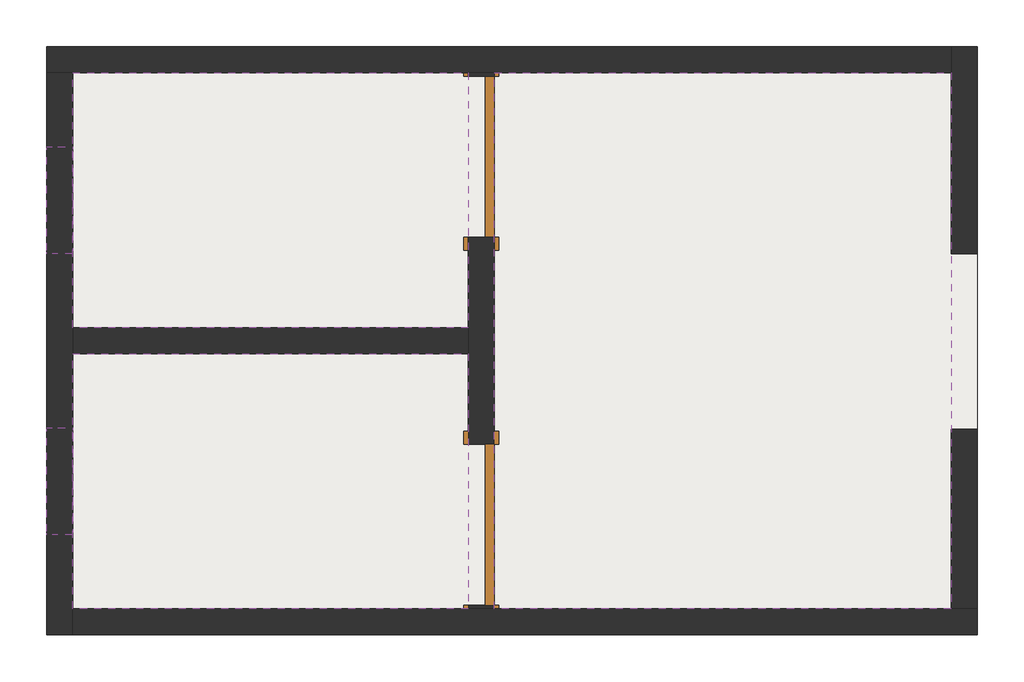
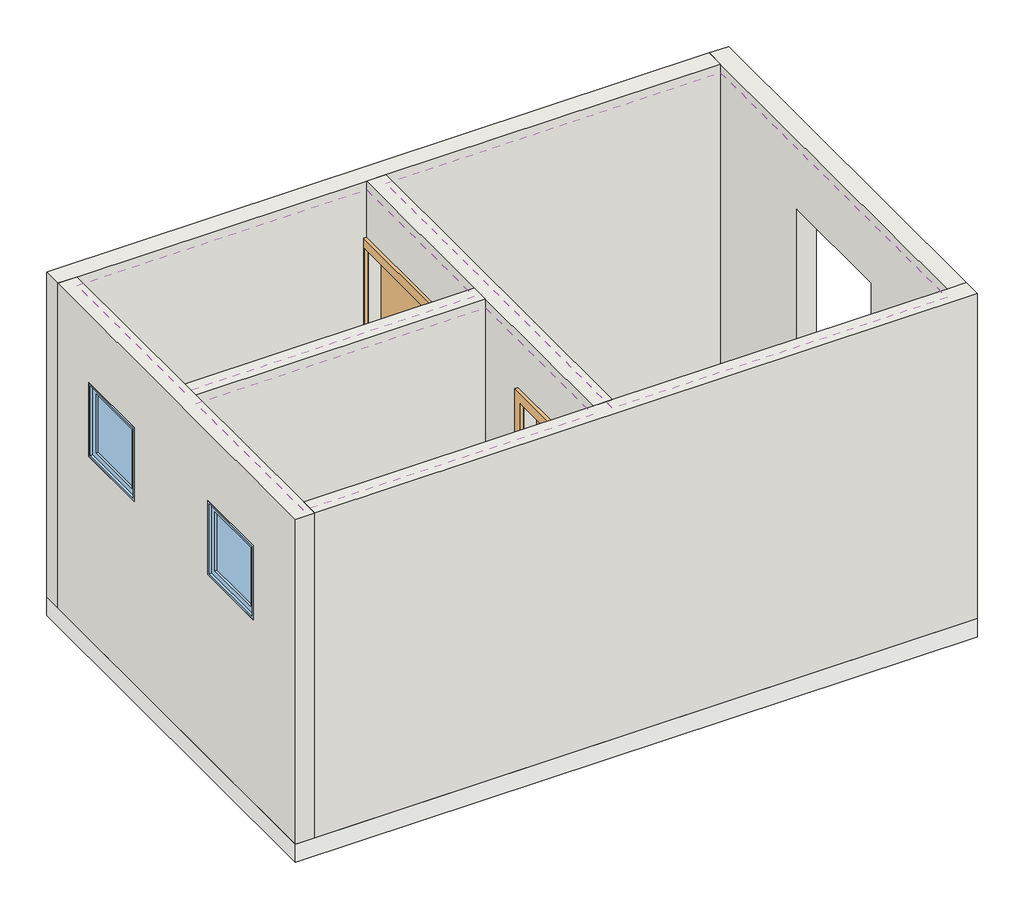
# One storey: 6 walls, 3 coverings, 2 doors, 2 windows, 1 slab.
"""IFC4 building model written with IfcOpenShell, lengths in millimetres."""

from ifc_helpers import new_model, si_unit, frame, origin, origin_with_axes, place, context, project, spatial, polyline, outline, extrude, faceted_brep, transform, mapped, element, save
from components import door_0915_x_2134mm_f3d7f739, door_0915_x_2134mm_138fd904, m_fixo_0610_x_0610mm_d1ac9692

model = new_model("IFC4")

# Units and contexts
model_context = context("Model", 3, world=origin())
ifc_project = project(units=[si_unit("LENGTHUNIT", "METRE", prefix="MILLI")], contexts=[model_context])

# Site, building, storey
site = spatial("IfcSite", under=ifc_project)
building = spatial("IfcBuilding", under=site)
storey = spatial("IfcBuildingStorey", under=building, Name="Nível 1", Elevation=0.0)

# Coverings
placement = place(None, origin())
element("IfcCovering", 1, ObjectType="Simples", at=placement, inside=storey, context=model_context, shape_type="SweptSolid", body=[
    extrude(outline(polyline([(905.8117423, 2632.7008908), (3155.8117423, 2632.7008908), (3155.8117423, 1182.7008908), (905.8117423, 1182.7008908), (905.8117423, 2632.7008908)])), frame((0.0, 0.0, 2600.0), z_axis=(0.0, 0.0, 1.0), x_axis=(1.0, 0.0, 0.0)), (0.0, 0.0, 1.0), 57.0),
])
element("IfcCovering", 2, ObjectType="Simples", at=placement, inside=storey, context=model_context, shape_type="SweptSolid", body=[
    extrude(outline(polyline([(905.8117423, -417.2991092), (905.8117423, 1032.7008908), (3155.8117423, 1032.7008908), (3155.8117423, -417.2991092), (905.8117423, -417.2991092)])), frame((0.0, 0.0, 2600.0), z_axis=(0.0, 0.0, 1.0), x_axis=(1.0, 0.0, 0.0)), (0.0, 0.0, 1.0), 57.0),
])
element("IfcCovering", 3, ObjectType="Simples", at=placement, inside=storey, context=model_context, shape_type="SweptSolid", body=[
    extrude(outline(polyline([(3305.8117423, -417.2991092), (3305.8117423, 2632.7008908), (5905.8117423, 2632.7008908), (5905.8117423, -417.2991092), (3305.8117423, -417.2991092)])), frame((0.0, 0.0, 2600.0), z_axis=(0.0, 0.0, 1.0), x_axis=(1.0, 0.0, 0.0)), (0.0, 0.0, 1.0), 57.0),
])

# Doors
door_0915_x_2134mm_shape = door_0915_x_2134mm_f3d7f739(model_context)
element("IfcDoor", 4, ObjectType="M_Folha única : 0915 x 2134mm", at=placement, inside=storey, context=model_context, shape_type="MappedRepresentation", body=[
    mapped(door_0915_x_2134mm_shape, transform((3230.8117423, 2155.2008908, 0.0), x_axis=(0.0, 1.0, 0.0), y_axis=(-1.0, 0.0, 0.0), z_axis=(0.0, 0.0, 1.0))),
])
door_0915_x_2134mm_2_shape = door_0915_x_2134mm_138fd904(model_context)
element("IfcDoor", 5, ObjectType="M_Folha única : 0915 x 2134mm", at=placement, inside=storey, context=model_context, shape_type="MappedRepresentation", body=[
    mapped(door_0915_x_2134mm_2_shape, transform((3230.8117423, 60.2008908, 0.0), x_axis=(0.0, -1.0, 0.0), y_axis=(1.0, 0.0, 0.0), z_axis=(0.0, 0.0, 1.0))),
])

# Slab
element("IfcSlab", 6, ObjectType="Genérico 150 mm", at=placement, inside=storey, context=model_context, shape_type="SweptSolid", body=[
    extrude(outline(polyline([(6055.8117423, 2782.7008908), (6055.8117423, -567.2991092), (755.8117423, -567.2991092), (755.8117423, 2782.7008908), (6055.8117423, 2782.7008908)])), frame((0.0, 0.0, -150.0), z_axis=(0.0, 0.0, 1.0), x_axis=(1.0, 0.0, 0.0)), (0.0, 0.0, 1.0), 150.0),
])

# Walls
element("IfcWall", 7, ObjectType="Genérico - 150 mm Alvenaria", at=placement, inside=storey, context=model_context, shape_type="Brep", body=[
    faceted_brep([(755.8117423, 2632.7008908, 0.0), (905.8117423, 2632.7008908, 0.0), (3155.8117423, 2632.7008908, 0.0), (3305.8117423, 2632.7008908, 0.0), (5905.8117423, 2632.7008908, 0.0), (5905.8117423, 2632.7008908, 2670.0), (3305.8117423, 2632.7008908, 2670.0), (3155.8117423, 2632.7008908, 2670.0), (905.8117423, 2632.7008908, 2670.0), (755.8117423, 2632.7008908, 2670.0), (755.8117423, 2782.7008908, 0.0), (755.8117423, 2782.7008908, 2670.0), (5905.8117423, 2782.7008908, 2670.0), (5905.8117423, 2782.7008908, 0.0)], [[[0, 1, 2, 3, 4, 5, 6, 7, 8, 9]], [[10, 11, 12, 13]], [[4, 3, 2, 1, 0, 10, 13]], [[9, 8, 7, 6, 5, 12, 11]], [[0, 9, 11, 10]], [[5, 4, 13, 12]]]),
])
element("IfcWall", 8, ObjectType="Genérico - 150 mm Alvenaria", at=placement, inside=storey, context=model_context, shape_type="Brep", body=[
    faceted_brep([(905.8117423, -567.2991092, 0.0), (905.8117423, -417.2991092, 0.0), (905.8117423, 1032.7008908, 0.0), (905.8117423, 1182.7008908, 0.0), (905.8117423, 2632.7008908, 0.0), (905.8117423, 2632.7008908, 2670.0), (905.8117423, 1182.7008908, 2670.0), (905.8117423, 1032.7008908, 2670.0), (905.8117423, -417.2991092, 2670.0), (905.8117423, -567.2991092, 2670.0), (905.8117423, 1602.7008908, 1500.0), (905.8117423, 1602.7008908, 2110.0), (905.8117423, 2212.7008908, 2110.0), (905.8117423, 2212.7008908, 1500.0), (905.8117423, 2.7008908, 1500.0), (905.8117423, 2.7008908, 2110.0), (905.8117423, 612.7008908, 2110.0), (905.8117423, 612.7008908, 1500.0), (755.8117423, -567.2991092, 0.0), (755.8117423, -567.2991092, 2670.0), (755.8117423, 2632.7008908, 2670.0), (755.8117423, 2632.7008908, 0.0), (755.8117423, 1602.7008908, 1500.0), (755.8117423, 2212.7008908, 1500.0), (755.8117423, 2212.7008908, 2110.0), (755.8117423, 1602.7008908, 2110.0), (755.8117423, 2.7008908, 1500.0), (755.8117423, 612.7008908, 1500.0), (755.8117423, 612.7008908, 2110.0), (755.8117423, 2.7008908, 2110.0)], [[[0, 1, 2, 3, 4, 5, 6, 7, 8, 9], [10, 11, 12, 13], [14, 15, 16, 17]], [[18, 19, 20, 21], [22, 23, 24, 25], [26, 27, 28, 29]], [[4, 3, 2, 1, 0, 18, 21]], [[9, 8, 7, 6, 5, 20, 19]], [[0, 9, 19, 18]], [[5, 4, 21, 20]], [[11, 10, 22, 25]], [[12, 11, 25, 24]], [[13, 12, 24, 23]], [[10, 13, 23, 22]], [[15, 14, 26, 29]], [[16, 15, 29, 28]], [[17, 16, 28, 27]], [[14, 17, 27, 26]]]),
])
element("IfcWall", 9, ObjectType="Genérico - 150 mm Alvenaria", at=placement, inside=storey, context=model_context, shape_type="Brep", body=[
    faceted_brep([(6055.8117423, -417.2991092, 0.0), (5905.8117423, -417.2991092, 0.0), (3305.8117423, -417.2991092, 0.0), (3155.8117423, -417.2991092, 0.0), (905.8117423, -417.2991092, 0.0), (905.8117423, -417.2991092, 2670.0), (3155.8117423, -417.2991092, 2670.0), (3305.8117423, -417.2991092, 2670.0), (5905.8117423, -417.2991092, 2670.0), (6055.8117423, -417.2991092, 2670.0), (6055.8117423, -567.2991092, 0.0), (6055.8117423, -567.2991092, 2670.0), (905.8117423, -567.2991092, 2670.0), (905.8117423, -567.2991092, 0.0)], [[[0, 1, 2, 3, 4, 5, 6, 7, 8, 9]], [[10, 11, 12, 13]], [[4, 3, 2, 1, 0, 10, 13]], [[9, 8, 7, 6, 5, 12, 11]], [[0, 9, 11, 10]], [[5, 4, 13, 12]]]),
])
element("IfcWall", 10, ObjectType="Genérico - 150 mm Alvenaria", at=placement, inside=storey, context=model_context, shape_type="Brep", body=[
    faceted_brep([(5905.8117423, -417.2991092, 0.0), (5905.8117423, -417.2991092, 2670.0), (5905.8117423, 2632.7008908, 2670.0), (5905.8117423, 2782.7008908, 2670.0), (5905.8117423, 2782.7008908, 0.0), (5905.8117423, 2632.7008908, 0.0), (5905.8117423, 1602.7008908, 0.0), (5905.8117423, 1602.7008908, 2100.0), (5905.8117423, 602.7008908, 2100.0), (5905.8117423, 602.7008908, 0.0), (6055.8117423, -417.2991092, 2670.0), (6055.8117423, -417.2991092, 0.0), (6055.8117423, 602.7008908, 0.0), (6055.8117423, 602.7008908, 2100.0), (6055.8117423, 1602.7008908, 2100.0), (6055.8117423, 1602.7008908, 0.0), (6055.8117423, 2782.7008908, 0.0), (6055.8117423, 2782.7008908, 2670.0)], [[[0, 1, 2, 3, 4, 5, 6, 7, 8, 9]], [[10, 11, 12, 13, 14, 15, 16, 17]], [[4, 16, 15, 6, 5]], [[11, 0, 9, 12]], [[3, 2, 1, 10, 17]], [[4, 3, 17, 16]], [[1, 0, 11, 10]], [[7, 14, 13, 8]], [[14, 7, 6, 15]], [[8, 13, 12, 9]]]),
])
element("IfcWall", 11, ObjectType="Genérico - 150 mm Alvenaria", at=placement, inside=storey, context=model_context, shape_type="Brep", body=[
    faceted_brep([(3155.8117423, -417.2991092, 2670.0), (3155.8117423, 1032.7008908, 2670.0), (3155.8117423, 1182.7008908, 2670.0), (3155.8117423, 2632.7008908, 2670.0), (3155.8117423, 2632.7008908, 0.0), (3155.8117423, 2612.7008908, 0.0), (3155.8117423, 2612.7008908, 2134.0), (3155.8117423, 1697.7008908, 2134.0), (3155.8117423, 1697.7008908, 0.0), (3155.8117423, 1182.7008908, 0.0), (3155.8117423, 1032.7008908, 0.0), (3155.8117423, 517.7008908, 0.0), (3155.8117423, 517.7008908, 2134.0), (3155.8117423, -397.2991092, 2134.0), (3155.8117423, -397.2991092, 0.0), (3155.8117423, -417.2991092, 0.0), (3305.8117423, 2632.7008908, 2670.0), (3305.8117423, -417.2991092, 2670.0), (3305.8117423, -417.2991092, 0.0), (3305.8117423, -397.2991092, 0.0), (3305.8117423, -397.2991092, 2134.0), (3305.8117423, 517.7008908, 2134.0), (3305.8117423, 517.7008908, 0.0), (3305.8117423, 1697.7008908, 0.0), (3305.8117423, 1697.7008908, 2134.0), (3305.8117423, 2612.7008908, 2134.0), (3305.8117423, 2612.7008908, 0.0), (3305.8117423, 2632.7008908, 0.0)], [[[0, 1, 2, 3, 4, 5, 6, 7, 8, 9, 10, 11, 12, 13, 14, 15]], [[16, 17, 18, 19, 20, 21, 22, 23, 24, 25, 26, 27]], [[4, 27, 26, 5]], [[18, 15, 14, 19]], [[8, 23, 22, 11, 10, 9]], [[3, 2, 1, 0, 17, 16]], [[4, 3, 16, 27]], [[0, 15, 18, 17]], [[6, 5, 26, 25]], [[7, 6, 25, 24]], [[8, 7, 24, 23]], [[20, 13, 12, 21]], [[21, 12, 11, 22]], [[13, 20, 19, 14]]]),
])
element("IfcWall", 12, ObjectType="Genérico - 150 mm Alvenaria", at=placement, inside=storey, context=model_context, shape_type="SweptSolid", body=[
    extrude(outline(polyline([(3155.8117423, 1032.7008908), (905.8117423, 1032.7008908), (905.8117423, 1182.7008908), (3155.8117423, 1182.7008908), (3155.8117423, 1032.7008908)])), origin_with_axes(), (0.0, 0.0, 1.0), 2670.0),
])

# Windows
m_fixo_0610_x_0610mm_shape = m_fixo_0610_x_0610mm_d1ac9692(model_context)
element("IfcWindow", 13, ObjectType="M_Fixo : 0610 x 0610mm", at=placement, inside=storey, context=model_context, shape_type="MappedRepresentation", body=[
    mapped(m_fixo_0610_x_0610mm_shape, transform((843.8117423, 1907.7008908, 585.0), x_axis=(0.0, 1.0, 0.0), y_axis=(-1.0, 0.0, 0.0), z_axis=(0.0, 0.0, 1.0))),
])
element("IfcWindow", 14, ObjectType="M_Fixo : 0610 x 0610mm", at=placement, inside=storey, context=model_context, shape_type="MappedRepresentation", body=[
    mapped(m_fixo_0610_x_0610mm_shape, transform((843.8117423, 307.7008908, 585.0), x_axis=(0.0, 1.0, 0.0), y_axis=(-1.0, 0.0, 0.0), z_axis=(0.0, 0.0, 1.0))),
])

save(model, "model.ifc")
